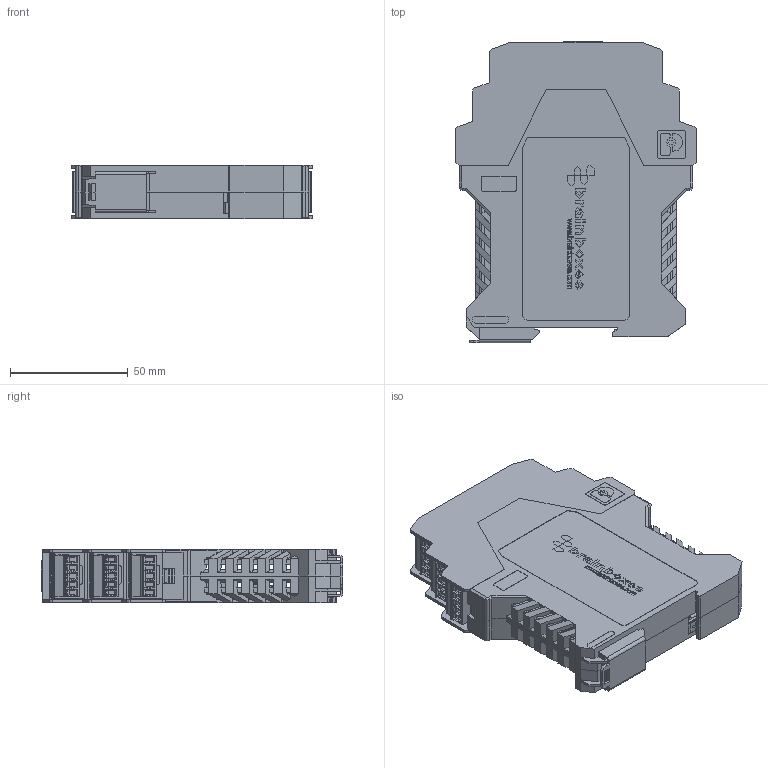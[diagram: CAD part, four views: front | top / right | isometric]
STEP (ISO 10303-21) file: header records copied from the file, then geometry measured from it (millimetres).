
FILE_DESCRIPTION(('STEP AP214'),'1');
FILE_NAME('ED-516 Cased PCB 3D Step.step','2020-12-17T13:25:49',(' '),(' '),'Spatial InterOp 3D','XD3DPlugin XRACreate',' ');
FILE_SCHEMA(('automotive_design'));
Length unit declared in the file: millimetre
Products named in the file (49): Submodel-\Input_S\82HEA3MM5TBX5_R_GREY_0.xtd; 82HEA3MM5TBX5_R_GREY_0; Submodel-82HEA3MM5TBX5_R_YELLOW_part_simplified_TBX5_RIGHT; DesignRootModel; Submodel-\Input_S\82HEA3MM5TBX5_L_BLACK.xtd; 82HEA3MM5TBX5_L_BLACK; Submodel-82HEA3MM5TBX5_L_BLACK_part_simplified_TBX5_LEFT; Submodel-\Input_S\SMD_ELEC_D.xtd; SMD_ELEC_D; Submodel-7547UF50V_part_simplified_SMD_ELEC_D; Submodel-\Input_S\00MAGJACKILED.xtd; 00MAGJACKILED; Submodel-00MAGJACKILED_part_simplified_MAGJACK_LEDS; Submodel-\Input_S\50HEA3X1.xtd; 50HEA3X1; Submodel-50HEA3X1_part_simplified_H100MIL1X3; Submodel-\Input_S\6610UH5A5.xtd; 6610UH5A5; Submodel-6610UH5A5_part_simplified_SRR1260; Submodel-\Input_S\50HEA2X3.xtd; 50HEA2X3; Submodel-50HEA3X2_part_simplified_H100MIL2X3; Submodel-\Input_S\40SMTBUTTON_0.xtd; 40SMTBUTTON_0; Submodel-40SMTBUTTON_part_simplified_SMTBUTTON; Submodel-\Input_S\SMC.xtd; SMC; Submodel-55TZ1K5SMC36V_part_simplified_SMC; Submodel-\Input_S\50HEA4X2.xtd; 50HEA4X2; Submodel-50HEA4X2_part_simplified_H100MIL2X4; uid__9223372036854780285; Submodel-AssyDefn_13; BrainboxesLogo.step; Submodel-AssyDefn_12; EDCase3Way.sat; Submodel-noModelForPart_DATUM_2441444698; placementOutline; Submodel-DATUM_2441444698_part_DATUM; Submodel-\ImportedPartModels\LEDX2BLOCK_RESET_0.STEP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
Assembly tree (56 placements, depth 5):
  ED-516 Cased PCB 3D Step
    DesignRootModel
      Submodel-82HEA3MM5TBX5_R_YELLOW_part_simplified_TBX5_RIGHT  x3
        Submodel-\Input_S\82HEA3MM5TBX5_R_GREY_0.xtd
          82HEA3MM5TBX5_R_GREY_0
      Submodel-82HEA3MM5TBX5_L_BLACK_part_simplified_TBX5_LEFT  x3
        Submodel-\Input_S\82HEA3MM5TBX5_L_BLACK.xtd
          82HEA3MM5TBX5_L_BLACK
      Submodel-7547UF50V_part_simplified_SMD_ELEC_D
        Submodel-\Input_S\SMD_ELEC_D.xtd
          SMD_ELEC_D
      Submodel-00MAGJACKILED_part_simplified_MAGJACK_LEDS
        Submodel-\Input_S\00MAGJACKILED.xtd
          00MAGJACKILED
      Submodel-50HEA3X1_part_simplified_H100MIL1X3  x2
        Submodel-\Input_S\50HEA3X1.xtd
          50HEA3X1
      Submodel-6610UH5A5_part_simplified_SRR1260
        Submodel-\Input_S\6610UH5A5.xtd
          6610UH5A5
      Submodel-50HEA3X2_part_simplified_H100MIL2X3
        Submodel-\Input_S\50HEA2X3.xtd
          50HEA2X3
      Submodel-40SMTBUTTON_part_simplified_SMTBUTTON
        Submodel-\Input_S\40SMTBUTTON_0.xtd
          40SMTBUTTON_0
      Submodel-55TZ1K5SMC36V_part_simplified_SMC  x3
        Submodel-\Input_S\SMC.xtd
          SMC
      Submodel-50HEA4X2_part_simplified_H100MIL2X4
        Submodel-\Input_S\50HEA4X2.xtd
          50HEA4X2
      uid__9223372036854780285
      Submodel-AssyDefn_13  x2
        BrainboxesLogo.step
      Submodel-AssyDefn_12
        EDCase3Way.sat
      Submodel-DATUM_2441444698_part_DATUM
        Submodel-noModelForPart_DATUM_2441444698
          placementOutline
      Submodel-55LEDX2REDGREEN_part_LEDX2BLOCK
        Submodel-\ImportedPartModels\LEDX2BLOCK_RESET_0.STEP
          LEDX2BLOCK_RESET_0.xtd
      Submodel-REJECTMARK_3219705766_part_REJECTMARK
        Submodel-noModelForPart_REJECTMARK_3219705766
          placementOutline
      Submodel-CHASSISPINS_1097425168_part_CHASSISPINS
        Submodel-noModelForPart_CHASSISPINS_1097425168
          placementOutline
Bounding box: 102 x 127.88 x 22.6 mm (x, y, z)
Volume: 109687.8 mm3; surface area: 136353 mm2
Topology: 168 solids, 168 shells, 13367 faces, 36046 edges, 23396 vertices
Faces by surface type: plane 10256, cylinder 2155, bspline 532, torus 210, cone 197, sphere 17
Full cylindrical faces by diameter (mm): 0.6 x2, 3.81 x1
Entity records: 441303 total; most frequent: CARTESIAN_POINT 72937, ORIENTED_EDGE 59180, DIRECTION 55441, EDGE_CURVE 29590, LINE 23993, VECTOR 23993, VERTEX_POINT 19144, AXIS2_PLACEMENT_3D 15724
